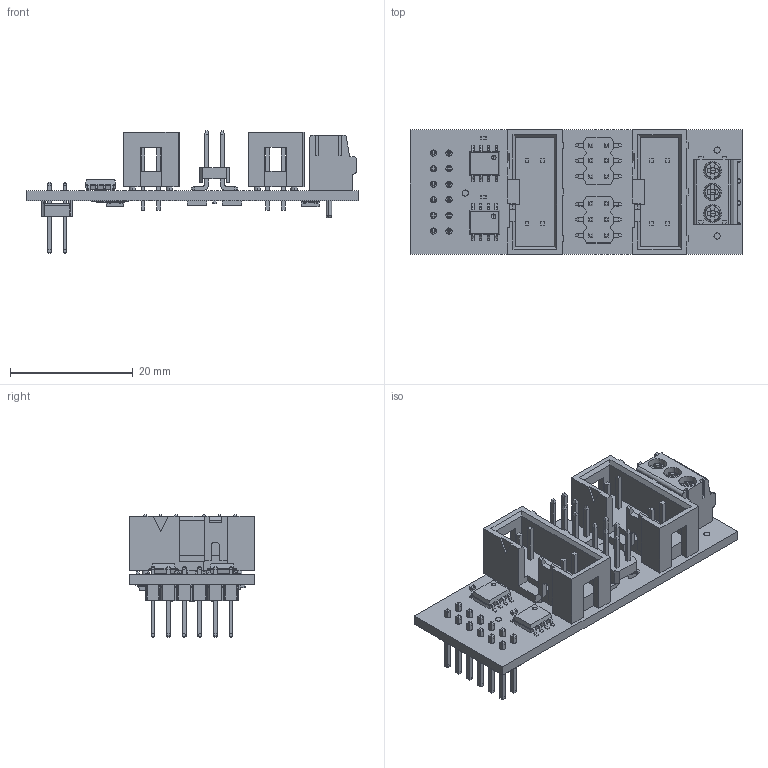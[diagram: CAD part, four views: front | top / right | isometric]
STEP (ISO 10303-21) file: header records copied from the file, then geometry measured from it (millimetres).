
FILE_DESCRIPTION(('Open CASCADE Model'),'2;1');
FILE_NAME('Open CASCADE Shape Model','2025-01-21T14:05:33',('Author'),( 'Open CASCADE'),'Open CASCADE STEP processor 7.5','Open CASCADE 7.5' ,'Unknown');
FILE_SCHEMA(('AUTOMOTIVE_DESIGN { 1 0 10303 214 1 1 1 1 }'));
Length unit declared in the file: millimetre
Products named in the file (59): PCB; Board; Open CASCADE STEP translator 7.5 1.1.1; Serial1; Label; J2; pin_header_awl254-dg-g12d; J3; 10-9185106324; C1; User Library-SMD CAPACITOR0402; C3; C5; C6; D1; SW3dPS-3-lead sot23-3; D2; J4; J5; pin_header_SMD_P254-Pin06_Row2; J6; R3; 10593916400; Extruded; 10593916160; R4; R5; R6; U1; SOIC-8-1; U2; J1; 1984620; pt_1.5-3-3.5-h; PM1; 8898223056; Cylinder; PM2; 8898223136; PM3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
Assembly tree (79 placements, depth 4):
  PCB
    Board
      Open CASCADE STEP translator 7.5 1.1.1
    Serial1
      Label
    J2
      pin_header_awl254-dg-g12d
    J3
      10-9185106324
    C1
      User Library-SMD CAPACITOR0402
    C3
      User Library-SMD CAPACITOR0402
    C5
      User Library-SMD CAPACITOR0402
    C6
      User Library-SMD CAPACITOR0402
    D1
      SW3dPS-3-lead sot23-3
    D2
      SW3dPS-3-lead sot23-3
    J4
      10-9185106324
    J5
      pin_header_SMD_P254-Pin06_Row2
    J6
      pin_header_SMD_P254-Pin06_Row2
    R3
      10593916400  x2
        Extruded
      10593916160
        Extruded
    R4
      10593916400  x2
        Extruded
      10593916160
        Extruded
    R5
      10593916400  x2
        Extruded
      10593916160
        Extruded
    R6
      10593916400  x2
        Extruded
      10593916160
        Extruded
    U1
      SOIC-8-1
    U2
      SOIC-8-1
    J1
      1984620
        pt_1.5-3-3.5-h
    PM1
      8898223056
        Cylinder
    PM2
      8898223136
        Cylinder
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Bounding box: 54.06 x 20.32 x 19.98 mm (x, y, z)
Volume: 4597.1 mm3; surface area: 8137.5 mm2
Topology: 47 solids, 47 shells, 2347 faces, 5917 edges, 3727 vertices
Faces by surface type: plane 1644, cylinder 315, bspline 294, sphere 52, cone 18, revolution 12, torus 12
Full cylindrical faces by diameter (mm): 1 x38, 1.1 x3
Entity records: 70731 total; most frequent: CARTESIAN_POINT 14142, ORIENTED_EDGE 8404, DIRECTION 7351, EDGE_CURVE 4202, LINE 3255, VECTOR 3255, PRESENTATION_STYLE_ASSIGNMENT 2956, VERTEX_POINT 2675
